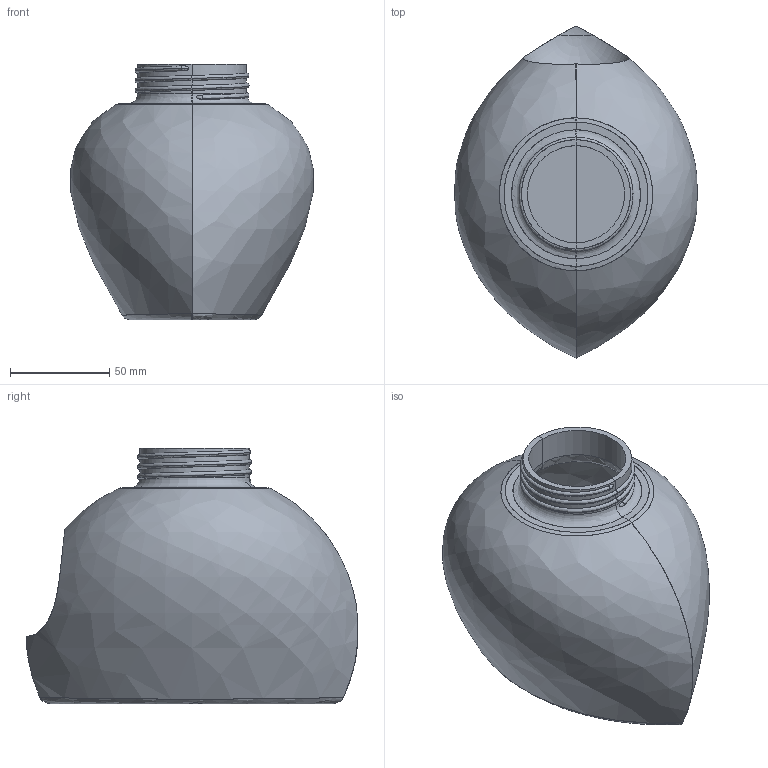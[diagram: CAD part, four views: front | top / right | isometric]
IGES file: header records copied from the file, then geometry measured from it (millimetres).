
Start section: START RECORD GO HERE.
Global section: file name: c1-Fibla_Campmany_Julia-solucion-posible.igs; native system: IBM CATIA IGES - CATIA Version 5 Release 19 ; preprocessor: CATIA Version 5 Release 19 ; author: andres.garcia; organization: IQS; date: 20200131.143920; units: millimetre
Bounding box: 122.34 x 167.44 x 129 mm (x, y, z)
Surface area: 117495.3 mm2 (no closed solid volume)
Topology: 0 solids, 0 shells, 54 faces, 252 edges, 248 vertices
Faces by surface type: bspline 32, revolution 16, plane 6
